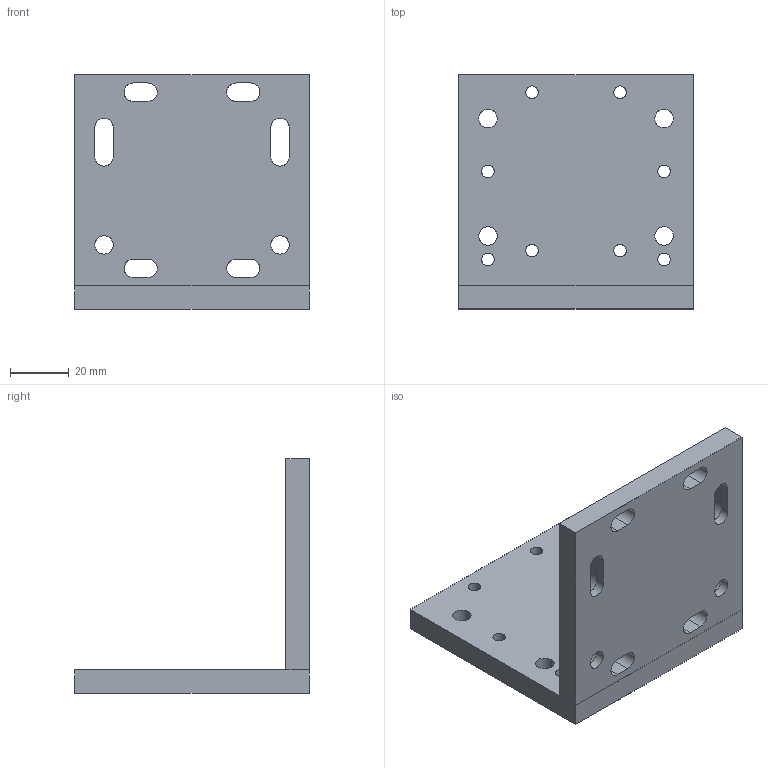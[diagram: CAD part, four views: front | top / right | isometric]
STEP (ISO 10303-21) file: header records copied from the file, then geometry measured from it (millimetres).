
FILE_DESCRIPTION(/* description */ (''),/* implementation_level */ '2;1');
FILE_NAME(/* name */ 'LFP-80~1',/* time_stamp */ '2024-08-29T14:20:06+08:00',/* author */ (''),/* organization */ (''),/* preprocessor_version */ 'ST-DEVELOPER v16.5',/* originating_system */ '',/* authorisation */ '');
FILE_SCHEMA (('AUTOMOTIVE_DESIGN'));
Length unit declared in the file: millimetre
Products named in the file (1): Document
Bounding box: 80 x 80 x 80 mm (x, y, z)
Volume: 90063.2 mm3; surface area: 30178.3 mm2
Topology: 1 solids, 1 shells, 79 faces, 215 edges, 142 vertices
Faces by surface type: bspline 60, plane 19
Entity records: 2682 total; most frequent: CARTESIAN_POINT 1464, ORIENTED_EDGE 430, EDGE_CURVE 215, VERTEX_POINT 142, EDGE_LOOP 123, ADVANCED_FACE 79, FACE_OUTER_BOUND 79, FACE_BOUND 44
